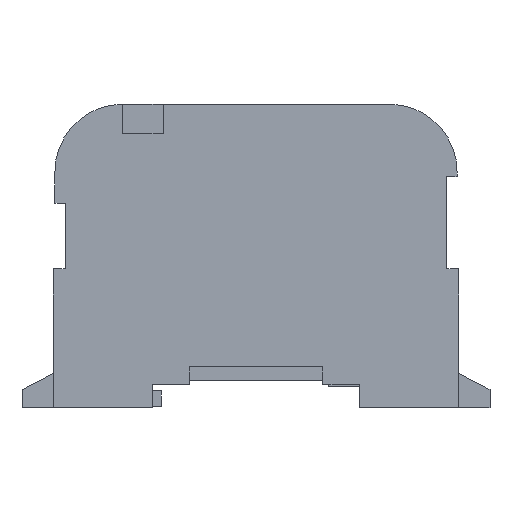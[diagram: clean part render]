
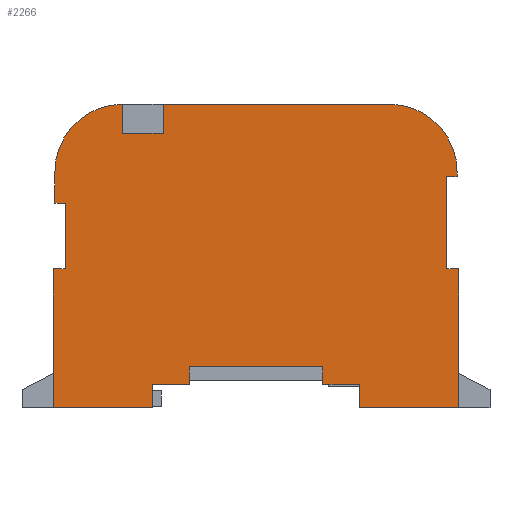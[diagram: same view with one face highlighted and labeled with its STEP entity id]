
A CAD part, front view. The second image highlights one B-rep face of the part: STEP entity #2266.
In plain terms, the highlighted planar face has unit normal (0, -1, 0).
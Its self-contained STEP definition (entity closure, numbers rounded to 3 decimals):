
#27=CIRCLE('',#2398,11.55);
#28=CIRCLE('',#2399,11.55);
#41=ORIENTED_EDGE('',*,*,#705,.F.);
#42=ORIENTED_EDGE('',*,*,#706,.T.);
#43=ORIENTED_EDGE('',*,*,#707,.T.);
#44=ORIENTED_EDGE('',*,*,#708,.T.);
#45=ORIENTED_EDGE('',*,*,#709,.T.);
#46=ORIENTED_EDGE('',*,*,#710,.T.);
#47=ORIENTED_EDGE('',*,*,#711,.T.);
#48=ORIENTED_EDGE('',*,*,#712,.T.);
#49=ORIENTED_EDGE('',*,*,#713,.F.);
#50=ORIENTED_EDGE('',*,*,#714,.F.);
#51=ORIENTED_EDGE('',*,*,#715,.F.);
#52=ORIENTED_EDGE('',*,*,#716,.F.);
#53=ORIENTED_EDGE('',*,*,#717,.F.);
#54=ORIENTED_EDGE('',*,*,#718,.F.);
#55=ORIENTED_EDGE('',*,*,#719,.F.);
#56=ORIENTED_EDGE('',*,*,#720,.F.);
#57=ORIENTED_EDGE('',*,*,#721,.F.);
#58=ORIENTED_EDGE('',*,*,#722,.F.);
#59=ORIENTED_EDGE('',*,*,#723,.F.);
#60=ORIENTED_EDGE('',*,*,#724,.T.);
#61=ORIENTED_EDGE('',*,*,#725,.T.);
#62=ORIENTED_EDGE('',*,*,#726,.T.);
#63=ORIENTED_EDGE('',*,*,#727,.T.);
#64=ORIENTED_EDGE('',*,*,#728,.T.);
#65=ORIENTED_EDGE('',*,*,#729,.F.);
#705=EDGE_CURVE('',#1037,#1038,#1259,.T.);
#706=EDGE_CURVE('',#1037,#1039,#1260,.T.);
#707=EDGE_CURVE('',#1039,#1040,#1261,.T.);
#708=EDGE_CURVE('',#1040,#1041,#27,.T.);
#709=EDGE_CURVE('',#1041,#1042,#1262,.T.);
#710=EDGE_CURVE('',#1042,#1043,#1263,.T.);
#711=EDGE_CURVE('',#1043,#1044,#1264,.T.);
#712=EDGE_CURVE('',#1044,#1045,#1265,.T.);
#713=EDGE_CURVE('',#1046,#1045,#1266,.T.);
#714=EDGE_CURVE('',#1047,#1046,#1267,.T.);
#715=EDGE_CURVE('',#1048,#1047,#1268,.T.);
#716=EDGE_CURVE('',#1049,#1048,#1269,.T.);
#717=EDGE_CURVE('',#1050,#1049,#1270,.T.);
#718=EDGE_CURVE('',#1051,#1050,#1271,.T.);
#719=EDGE_CURVE('',#1052,#1051,#1272,.T.);
#720=EDGE_CURVE('',#1053,#1052,#1273,.T.);
#721=EDGE_CURVE('',#1054,#1053,#1274,.T.);
#722=EDGE_CURVE('',#1055,#1054,#1275,.T.);
#723=EDGE_CURVE('',#1056,#1055,#1276,.T.);
#724=EDGE_CURVE('',#1056,#1057,#1277,.T.);
#725=EDGE_CURVE('',#1057,#1058,#1278,.T.);
#726=EDGE_CURVE('',#1058,#1059,#1279,.T.);
#727=EDGE_CURVE('',#1059,#1060,#1280,.T.);
#728=EDGE_CURVE('',#1060,#1061,#28,.T.);
#729=EDGE_CURVE('',#1038,#1061,#1281,.T.);
#1037=VERTEX_POINT('',#3116);
#1038=VERTEX_POINT('',#3117);
#1039=VERTEX_POINT('',#3119);
#1040=VERTEX_POINT('',#3121);
#1041=VERTEX_POINT('',#3123);
#1042=VERTEX_POINT('',#3125);
#1043=VERTEX_POINT('',#3127);
#1044=VERTEX_POINT('',#3129);
#1045=VERTEX_POINT('',#3131);
#1046=VERTEX_POINT('',#3133);
#1047=VERTEX_POINT('',#3135);
#1048=VERTEX_POINT('',#3137);
#1049=VERTEX_POINT('',#3139);
#1050=VERTEX_POINT('',#3141);
#1051=VERTEX_POINT('',#3143);
#1052=VERTEX_POINT('',#3145);
#1053=VERTEX_POINT('',#3147);
#1054=VERTEX_POINT('',#3149);
#1055=VERTEX_POINT('',#3151);
#1056=VERTEX_POINT('',#3153);
#1057=VERTEX_POINT('',#3155);
#1058=VERTEX_POINT('',#3157);
#1059=VERTEX_POINT('',#3159);
#1060=VERTEX_POINT('',#3161);
#1061=VERTEX_POINT('',#3163);
#1259=LINE('',#3115,#1577);
#1260=LINE('',#3118,#1578);
#1261=LINE('',#3120,#1579);
#1262=LINE('',#3124,#1580);
#1263=LINE('',#3126,#1581);
#1264=LINE('',#3128,#1582);
#1265=LINE('',#3130,#1583);
#1266=LINE('',#3132,#1584);
#1267=LINE('',#3134,#1585);
#1268=LINE('',#3136,#1586);
#1269=LINE('',#3138,#1587);
#1270=LINE('',#3140,#1588);
#1271=LINE('',#3142,#1589);
#1272=LINE('',#3144,#1590);
#1273=LINE('',#3146,#1591);
#1274=LINE('',#3148,#1592);
#1275=LINE('',#3150,#1593);
#1276=LINE('',#3152,#1594);
#1277=LINE('',#3154,#1595);
#1278=LINE('',#3156,#1596);
#1279=LINE('',#3158,#1597);
#1280=LINE('',#3160,#1598);
#1281=LINE('',#3164,#1599);
#1577=VECTOR('',#2533,1000.);
#1578=VECTOR('',#2534,1000.);
#1579=VECTOR('',#2535,1000.);
#1580=VECTOR('',#2538,1000.);
#1581=VECTOR('',#2539,1000.);
#1582=VECTOR('',#2540,1000.);
#1583=VECTOR('',#2541,1000.);
#1584=VECTOR('',#2542,1000.);
#1585=VECTOR('',#2543,1000.);
#1586=VECTOR('',#2544,1000.);
#1587=VECTOR('',#2545,1000.);
#1588=VECTOR('',#2546,1000.);
#1589=VECTOR('',#2547,1000.);
#1590=VECTOR('',#2548,1000.);
#1591=VECTOR('',#2549,1000.);
#1592=VECTOR('',#2550,1000.);
#1593=VECTOR('',#2551,1000.);
#1594=VECTOR('',#2552,1000.);
#1595=VECTOR('',#2553,1000.);
#1596=VECTOR('',#2554,1000.);
#1597=VECTOR('',#2555,1000.);
#1598=VECTOR('',#2556,1000.);
#1599=VECTOR('',#2559,1000.);
#1895=EDGE_LOOP('',(#41,#42,#43,#44,#45,#46,#47,#48,#49,#50,#51,#52,#53,
#54,#55,#56,#57,#58,#59,#60,#61,#62,#63,#64,#65));
#2025=FACE_BOUND('',#1895,.T.);
#2155=PLANE('',#2397);
#2266=ADVANCED_FACE('',(#2025),#2155,.F.);
#2397=AXIS2_PLACEMENT_3D('',#3114,#2531,#2532);
#2398=AXIS2_PLACEMENT_3D('',#3122,#2536,#2537);
#2399=AXIS2_PLACEMENT_3D('',#3162,#2557,#2558);
#2531=DIRECTION('',(0.,1.,0.));
#2532=DIRECTION('',(0.,0.,1.));
#2533=DIRECTION('',(0.,0.,1.));
#2534=DIRECTION('',(-1.,0.,0.));
#2535=DIRECTION('',(0.,0.,1.));
#2536=DIRECTION('',(0.,-1.,0.));
#2537=DIRECTION('',(1.,0.,0.));
#2538=DIRECTION('',(0.,0.,-1.));
#2539=DIRECTION('',(1.,0.,0.));
#2540=DIRECTION('',(0.,0.,-1.));
#2541=DIRECTION('',(-1.,0.,0.));
#2542=DIRECTION('',(0.,0.,1.));
#2543=DIRECTION('',(-1.,0.,0.));
#2544=DIRECTION('',(0.,0.,-1.));
#2545=DIRECTION('',(-1.,0.,0.));
#2546=DIRECTION('',(0.,0.,-1.));
#2547=DIRECTION('',(-1.,0.,0.));
#2548=DIRECTION('',(0.,0.,1.));
#2549=DIRECTION('',(-1.,0.,0.));
#2550=DIRECTION('',(0.,0.,1.));
#2551=DIRECTION('',(-1.,0.,0.));
#2552=DIRECTION('',(0.,0.,-1.));
#2553=DIRECTION('',(-1.,0.,0.));
#2554=DIRECTION('',(0.,0.,1.));
#2555=DIRECTION('',(1.,0.,0.));
#2556=DIRECTION('',(0.,0.,1.));
#2557=DIRECTION('',(0.,-1.,0.));
#2558=DIRECTION('',(-1.,0.,0.));
#2559=DIRECTION('',(1.,0.,0.));
#3114=CARTESIAN_POINT('',(0.,29.403,0.));
#3115=CARTESIAN_POINT('',(-15.9,29.403,21.));
#3116=CARTESIAN_POINT('',(-15.9,29.403,21.));
#3117=CARTESIAN_POINT('',(-15.9,29.403,26.));
#3118=CARTESIAN_POINT('',(-22.9,29.403,21.));
#3119=CARTESIAN_POINT('',(-22.9,29.403,21.));
#3120=CARTESIAN_POINT('',(-22.9,29.403,21.));
#3121=CARTESIAN_POINT('',(-22.9,29.403,26.));
#3122=CARTESIAN_POINT('',(-22.9,29.403,14.45));
#3123=CARTESIAN_POINT('',(-34.45,29.403,14.45));
#3124=CARTESIAN_POINT('',(-34.45,29.403,9.));
#3125=CARTESIAN_POINT('',(-34.45,29.403,9.));
#3126=CARTESIAN_POINT('',(-32.7,29.403,9.));
#3127=CARTESIAN_POINT('',(-32.7,29.403,9.));
#3128=CARTESIAN_POINT('',(-32.7,29.403,-2.2));
#3129=CARTESIAN_POINT('',(-32.7,29.403,-2.2));
#3130=CARTESIAN_POINT('',(-32.7,29.403,-2.2));
#3131=CARTESIAN_POINT('',(-34.75,29.403,-2.2));
#3132=CARTESIAN_POINT('',(-34.75,29.403,-58.048));
#3133=CARTESIAN_POINT('',(-34.75,29.403,-26.));
#3134=CARTESIAN_POINT('',(70.241,29.403,-26.));
#3135=CARTESIAN_POINT('',(-17.75,29.403,-26.));
#3136=CARTESIAN_POINT('',(-17.75,29.403,-26.));
#3137=CARTESIAN_POINT('',(-17.75,29.403,-22.));
#3138=CARTESIAN_POINT('',(-11.45,29.403,-22.));
#3139=CARTESIAN_POINT('',(-11.45,29.403,-22.));
#3140=CARTESIAN_POINT('',(-11.45,29.403,-22.));
#3141=CARTESIAN_POINT('',(-11.45,29.403,-19.));
#3142=CARTESIAN_POINT('',(11.45,29.403,-19.));
#3143=CARTESIAN_POINT('',(11.45,29.403,-19.));
#3144=CARTESIAN_POINT('',(11.45,29.403,-22.));
#3145=CARTESIAN_POINT('',(11.45,29.403,-22.));
#3146=CARTESIAN_POINT('',(17.75,29.403,-22.));
#3147=CARTESIAN_POINT('',(17.75,29.403,-22.));
#3148=CARTESIAN_POINT('',(17.75,29.403,-26.));
#3149=CARTESIAN_POINT('',(17.75,29.403,-26.));
#3150=CARTESIAN_POINT('',(70.241,29.403,-26.));
#3151=CARTESIAN_POINT('',(34.75,29.403,-26.));
#3152=CARTESIAN_POINT('',(34.75,29.403,58.048));
#3153=CARTESIAN_POINT('',(34.75,29.403,-2.2));
#3154=CARTESIAN_POINT('',(34.75,29.403,-2.2));
#3155=CARTESIAN_POINT('',(32.7,29.403,-2.2));
#3156=CARTESIAN_POINT('',(32.7,29.403,-2.2));
#3157=CARTESIAN_POINT('',(32.7,29.403,13.6));
#3158=CARTESIAN_POINT('',(34.45,29.403,13.6));
#3159=CARTESIAN_POINT('',(34.45,29.403,13.6));
#3160=CARTESIAN_POINT('',(34.45,29.403,13.6));
#3161=CARTESIAN_POINT('',(34.45,29.403,14.45));
#3162=CARTESIAN_POINT('',(22.9,29.403,14.45));
#3163=CARTESIAN_POINT('',(22.9,29.403,26.));
#3164=CARTESIAN_POINT('',(-70.241,29.403,26.));
